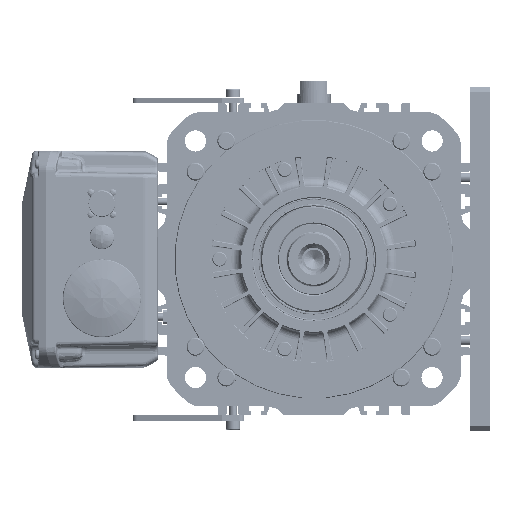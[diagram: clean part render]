
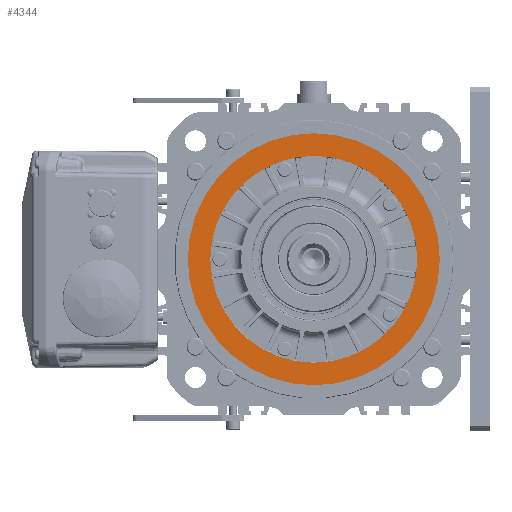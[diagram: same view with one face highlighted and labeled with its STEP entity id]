
A CAD part, left-side view. The second image highlights one B-rep face of the part: STEP entity #4344.
In plain terms, the highlighted planar face has unit normal (-1, 0, 0).
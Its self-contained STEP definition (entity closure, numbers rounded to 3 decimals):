
#2729=CARTESIAN_POINT('',(112.02,0.,0.));
#2730=DIRECTION('',(-1.,0.,0.));
#2731=DIRECTION('',(0.,-1.,0.));
#2732=AXIS2_PLACEMENT_3D('',#2729,#2730,#2731);
#2734=CARTESIAN_POINT('',(112.02,0.,0.));
#2735=DIRECTION('',(1.,0.,0.));
#2736=DIRECTION('',(0.,-1.,0.));
#2737=AXIS2_PLACEMENT_3D('',#2734,#2735,#2736);
#2739=CARTESIAN_POINT('',(112.02,0.,0.));
#2740=DIRECTION('',(-1.,0.,0.));
#2741=DIRECTION('',(0.,-1.,0.));
#2742=AXIS2_PLACEMENT_3D('',#2739,#2740,#2741);
#2761=CARTESIAN_POINT('',(112.02,0.,0.));
#2762=DIRECTION('',(1.,0.,0.));
#2763=DIRECTION('',(0.,-1.,0.));
#2764=AXIS2_PLACEMENT_3D('',#2761,#2762,#2763);
#3485=CARTESIAN_POINT('',(112.02,-92.75,0.));
#3487=VERTEX_POINT('',#3485);
#3489=CARTESIAN_POINT('',(112.02,92.75,0.));
#3491=VERTEX_POINT('',#3489);
#3492=CARTESIAN_POINT('',(112.02,-113.,0.));
#3493=CARTESIAN_POINT('',(112.02,113.,0.));
#3494=VERTEX_POINT('',#3492);
#3495=VERTEX_POINT('',#3493);
#4328=CARTESIAN_POINT('',(112.02,0.,0.));
#4329=DIRECTION('',(-1.,0.,0.));
#4330=DIRECTION('',(0.,-1.,0.));
#4331=AXIS2_PLACEMENT_3D('',#4328,#4329,#4330);
#4332=PLANE('',#4331);
#4334=ORIENTED_EDGE('',*,*,#4333,.T.);
#4336=ORIENTED_EDGE('',*,*,#4335,.F.);
#4337=EDGE_LOOP('',(#4334,#4336));
#4338=FACE_OUTER_BOUND('',#4337,.F.);
#4339=ORIENTED_EDGE('',*,*,#4323,.T.);
#4341=ORIENTED_EDGE('',*,*,#4340,.F.);
#4342=EDGE_LOOP('',(#4339,#4341));
#4343=FACE_BOUND('',#4342,.F.);
#4344=ADVANCED_FACE('',(#4338,#4343),#4332,.T.);
#2733=CIRCLE('',#2732,92.75);
#2738=CIRCLE('',#2737,92.75);
#2743=CIRCLE('',#2742,113.);
#2765=CIRCLE('',#2764,113.);
#4323=EDGE_CURVE('',#3487,#3491,#2733,.T.);
#4333=EDGE_CURVE('',#3494,#3495,#2765,.T.);
#4335=EDGE_CURVE('',#3494,#3495,#2743,.T.);
#4340=EDGE_CURVE('',#3487,#3491,#2738,.T.);
